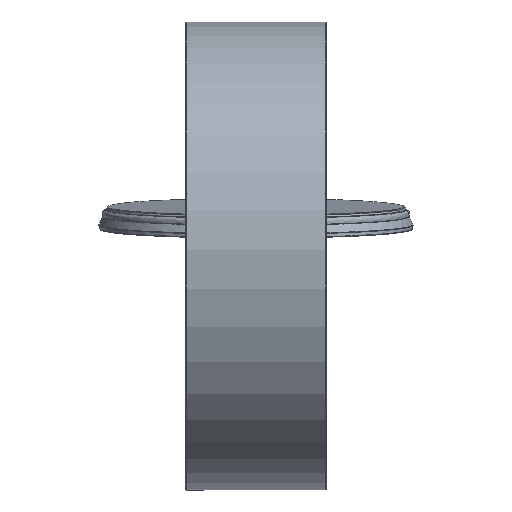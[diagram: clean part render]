
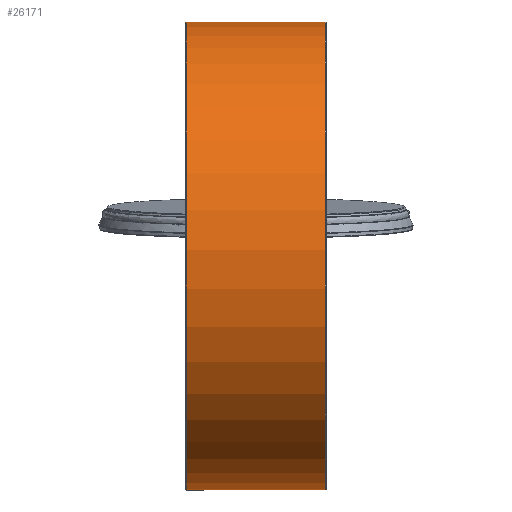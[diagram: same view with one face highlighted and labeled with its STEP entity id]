
A CAD part, left-side view. The second image highlights one B-rep face of the part: STEP entity #26171.
In plain terms, the highlighted free-form (B-spline) face has degree [2, 1] with [7, 2] control points.
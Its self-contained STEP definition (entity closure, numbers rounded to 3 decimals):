
#24916=CARTESIAN_POINT('V16',(89.5,150.,
   0.0));
#24917=VERTEX_POINT('V16',#24916);
#24941=CARTESIAN_POINT('E22',(89.5,150.,
   0.0));
#24942=CARTESIAN_POINT('E22',(89.5,150.,
   -259.808));
#24943=CARTESIAN_POINT('E22',(89.5,-75.,
   -129.904));
#24944=CARTESIAN_POINT('E22',(89.5,
   -300.,0.));
#24945=CARTESIAN_POINT('E22',(89.5,-75.,
   129.904));
#24946=CARTESIAN_POINT('E22',(89.5,150.,
   259.808));
#24947=CARTESIAN_POINT('E22',(89.5,150.,
   0.0));
#24955=(BOUNDED_CURVE()B_SPLINE_CURVE(2,(#24941,#24942,#24943,
   #24944,#24945,#24946,#24947),.CIRCULAR_ARC.,.T.,.U.)
   B_SPLINE_CURVE_WITH_KNOTS((3,2,2,3),(0.0,5.838,
   11.677,17.515),.UNSPECIFIED.)CURVE()
   GEOMETRIC_REPRESENTATION_ITEM()RATIONAL_B_SPLINE_CURVE((1.0,
   0.5,1.0,0.5,1.0,0.5,1.0)
   )REPRESENTATION_ITEM('E22'));
#24956=EDGE_CURVE('E22',#24917,#24917,#24955,.T.);
#25995=CARTESIAN_POINT('V14',(76.038,150.,
   0.0));
#25996=VERTEX_POINT('V14',#25995);
#25997=CARTESIAN_POINT('V3',(76.038,132.5,
   70.312));
#25998=VERTEX_POINT('V3',#25997);
#25999=CARTESIAN_POINT('E17',(76.038,150.,
   0.0));
#26000=CARTESIAN_POINT('E17',(76.038,150.,
   37.334));
#26001=CARTESIAN_POINT('E17',(76.038,132.5,
   70.312));
#26009=(BOUNDED_CURVE()B_SPLINE_CURVE(2,(#25999,#26000,#26001),
   .CIRCULAR_ARC.,.F.,.U.)CURVE()GEOMETRIC_REPRESENTATION_ITEM()
   QUASI_UNIFORM_CURVE()RATIONAL_B_SPLINE_CURVE((1.0,
   0.874,0.812))REPRESENTATION_ITEM('E17'));
#26010=EDGE_CURVE('E17',#25996,#25998,#26009,.T.);
#26012=CARTESIAN_POINT('V2',(76.038,132.5,
   -70.312));
#26013=VERTEX_POINT('V2',#26012);
#26019=CARTESIAN_POINT('E18',(76.038,132.5,
   -70.312));
#26020=CARTESIAN_POINT('E18',(76.038,150.,
   -37.334));
#26021=CARTESIAN_POINT('E18',(76.038,150.,
   0.0));
#26029=(BOUNDED_CURVE()B_SPLINE_CURVE(2,(#26019,#26020,#26021),
   .CIRCULAR_ARC.,.F.,.U.)CURVE()GEOMETRIC_REPRESENTATION_ITEM()
   QUASI_UNIFORM_CURVE()RATIONAL_B_SPLINE_CURVE((0.812,
   0.874,1.0))REPRESENTATION_ITEM('E18'));
#26030=EDGE_CURVE('E18',#26013,#25996,#26029,.T.);
#26040=CARTESIAN_POINT('V1',(13.963,132.5,
   -70.312));
#26041=VERTEX_POINT('V1',#26040);
#26042=CARTESIAN_POINT('E1',(13.963,132.5,
   -70.312));
#26043=CARTESIAN_POINT('E1',(76.038,132.5,
   -70.312));
#26044=QUASI_UNIFORM_CURVE('E1',1,(#26042,#26043),.POLYLINE_FORM.,
   .F.,.U.);
#26045=EDGE_CURVE('E1',#26041,#26013,#26044,.T.);
#26048=CARTESIAN_POINT('V4',(13.963,132.5,
   70.312));
#26049=VERTEX_POINT('V4',#26048);
#26050=CARTESIAN_POINT('E3',(76.038,132.5,
   70.312));
#26051=CARTESIAN_POINT('E3',(13.963,132.5,
   70.312));
#26052=QUASI_UNIFORM_CURVE('E3',1,(#26050,#26051),.POLYLINE_FORM.,
   .F.,.U.);
#26053=EDGE_CURVE('E3',#25998,#26049,#26052,.T.);
#26077=CARTESIAN_POINT('V15',(13.963,150.,
   0.0));
#26078=VERTEX_POINT('V15',#26077);
#26079=CARTESIAN_POINT('E19',(13.963,150.,
   0.0));
#26080=CARTESIAN_POINT('E19',(13.963,150.,
   -37.334));
#26081=CARTESIAN_POINT('E19',(13.963,132.5,
   -70.312));
#26089=(BOUNDED_CURVE()B_SPLINE_CURVE(2,(#26079,#26080,#26081),
   .CIRCULAR_ARC.,.F.,.U.)CURVE()GEOMETRIC_REPRESENTATION_ITEM()
   QUASI_UNIFORM_CURVE()RATIONAL_B_SPLINE_CURVE((1.0,
   0.874,0.812))REPRESENTATION_ITEM('E19'));
#26090=EDGE_CURVE('E19',#26078,#26041,#26089,.T.);
#26093=CARTESIAN_POINT('E20',(13.963,132.5,
   70.312));
#26094=CARTESIAN_POINT('E20',(13.963,150.,
   37.334));
#26095=CARTESIAN_POINT('E20',(13.963,150.,
   0.0));
#26103=(BOUNDED_CURVE()B_SPLINE_CURVE(2,(#26093,#26094,#26095),
   .CIRCULAR_ARC.,.F.,.U.)CURVE()GEOMETRIC_REPRESENTATION_ITEM()
   QUASI_UNIFORM_CURVE()RATIONAL_B_SPLINE_CURVE((0.812,
   0.874,1.0))REPRESENTATION_ITEM('E20'));
#26104=EDGE_CURVE('E20',#26049,#26078,#26103,.T.);
#26109=CARTESIAN_POINT('F7',(0.5,150.,
   0.0));
#26110=CARTESIAN_POINT('F7',(0.5,150.,
   259.808));
#26111=CARTESIAN_POINT('F7',(0.5,-75.,
   129.904));
#26112=CARTESIAN_POINT('F7',(0.5,-300.,
   0.));
#26113=CARTESIAN_POINT('F7',(0.5,-75.,
   -129.904));
#26114=CARTESIAN_POINT('F7',(0.5,150.,
   -259.808));
#26115=CARTESIAN_POINT('F7',(0.5,150.,
   0.0));
#26116=CARTESIAN_POINT('F7',(89.5,150.,
   0.0));
#26117=CARTESIAN_POINT('F7',(89.5,150.,
   259.808));
#26118=CARTESIAN_POINT('F7',(89.5,-75.,
   129.904));
#26119=CARTESIAN_POINT('F7',(89.5,-300.,
   0.));
#26120=CARTESIAN_POINT('F7',(89.5,-75.,
   -129.904));
#26121=CARTESIAN_POINT('F7',(89.5,150.,
   -259.808));
#26122=CARTESIAN_POINT('F7',(89.5,150.,
   0.0));
#26130=(BOUNDED_SURFACE()B_SPLINE_SURFACE(2,1,((#26109,#26116),(
   #26110,#26117),(#26111,#26118),(#26112,#26119),(#26113,
   #26120),(#26114,#26121),(#26115,#26122)),.CYLINDRICAL_SURF.,
   .T.,.F.,.U.)B_SPLINE_SURFACE_WITH_KNOTS((3,2,2,3),(2,2),(0.0,
   5.838,11.677,17.515),(0.0,
   1.0),.UNSPECIFIED.)GEOMETRIC_REPRESENTATION_ITEM()
   RATIONAL_B_SPLINE_SURFACE(((1.0,1.0),(0.5,
   0.5),(1.0,1.0),(0.5,
   0.5),(1.0,1.0),(0.5,
   0.5),(1.0,1.0)))REPRESENTATION_ITEM('F7')SURFACE()
   );
#26131=ORIENTED_EDGE('E19',*,*,#26090,.F.);
#26132=CARTESIAN_POINT('V17',(0.5,150.0,0.0));
#26133=VERTEX_POINT('V17',#26132);
#26134=CARTESIAN_POINT('E23',(13.963,150.,
   0.0));
#26135=CARTESIAN_POINT('E23',(0.5,150.,
   0.0));
#26136=B_SPLINE_CURVE_WITH_KNOTS('E23',1,(#26134,#26135),
   .POLYLINE_FORM.,.F.,.U.,(2,2),(0.849,1.0),
   .UNSPECIFIED.);
#26137=EDGE_CURVE('E23',#26078,#26133,#26136,.T.);
#26138=ORIENTED_EDGE('E23',*,*,#26137,.T.);
#26139=CARTESIAN_POINT('E24',(0.5,150.0,0.0));
#26140=CARTESIAN_POINT('E24',(0.5,150.,
   -259.808));
#26141=CARTESIAN_POINT('E24',(0.5,-75.,
   -129.904));
#26142=CARTESIAN_POINT('E24',(0.5,-300.,
   0.));
#26143=CARTESIAN_POINT('E24',(0.5,-75.,
   129.904));
#26144=CARTESIAN_POINT('E24',(0.5,150.0,
   259.808));
#26145=CARTESIAN_POINT('E24',(0.5,150.0,0.0));
#26153=(BOUNDED_CURVE()B_SPLINE_CURVE(2,(#26139,#26140,#26141,
   #26142,#26143,#26144,#26145),.CIRCULAR_ARC.,.T.,.U.)
   B_SPLINE_CURVE_WITH_KNOTS((3,2,2,3),(0.0,733.622,
   1467.244,2200.867),.UNSPECIFIED.)CURVE()
   GEOMETRIC_REPRESENTATION_ITEM()RATIONAL_B_SPLINE_CURVE((1.0,
   0.5,1.0,0.5,1.0,0.5,1.0)
   )REPRESENTATION_ITEM('E24'));
#26154=EDGE_CURVE('E24',#26133,#26133,#26153,.T.);
#26155=ORIENTED_EDGE('E24',*,*,#26154,.T.);
#26156=ORIENTED_EDGE('E23',*,*,#26137,.F.);
#26157=ORIENTED_EDGE('F6',*,*,#26104,.F.);
#26158=ORIENTED_EDGE('E3',*,*,#26053,.F.);
#26159=ORIENTED_EDGE('E17',*,*,#26010,.F.);
#26160=CARTESIAN_POINT('E21',(89.5,150.,
   0.0));
#26161=CARTESIAN_POINT('E21',(76.038,150.,
   0.0));
#26162=B_SPLINE_CURVE_WITH_KNOTS('E21',1,(#26160,#26161),
   .POLYLINE_FORM.,.F.,.U.,(2,2),(0.0,0.151),
   .UNSPECIFIED.);
#26163=EDGE_CURVE('E21',#24917,#25996,#26162,.T.);
#26164=ORIENTED_EDGE('E21',*,*,#26163,.F.);
#26165=ORIENTED_EDGE('F9',*,*,#24956,.F.);
#26166=ORIENTED_EDGE('E21',*,*,#26163,.T.);
#26167=ORIENTED_EDGE('F5',*,*,#26030,.F.);
#26168=ORIENTED_EDGE('E1',*,*,#26045,.F.);
#26169=EDGE_LOOP('F7',(#26131,#26138,#26155,#26156,#26157,#26158,
   #26159,#26164,#26165,#26166,#26167,#26168));
#26170=FACE_OUTER_BOUND('F7',#26169,.F.);
#26171=ADVANCED_FACE('F7',(#26170),#26130,.T.);
